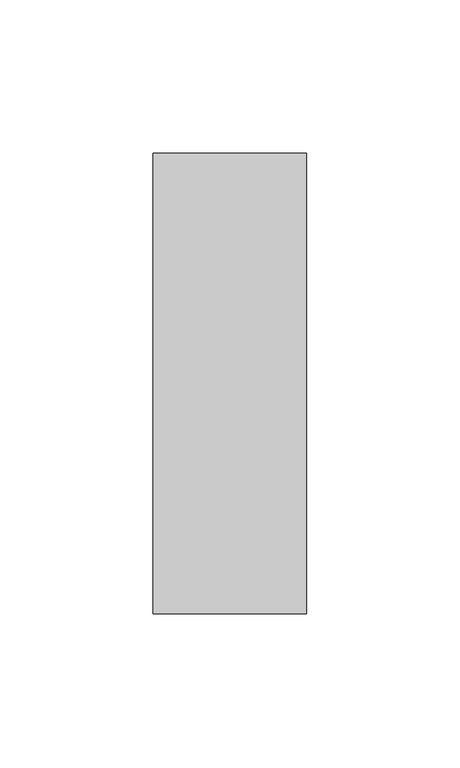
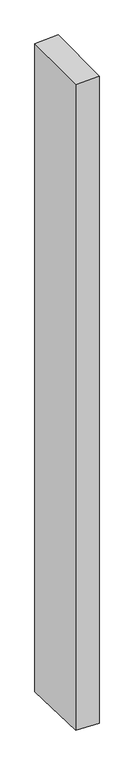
"""IFC4 building model written with IfcOpenShell, lengths in millimetres: member geometry, Прямоугольный импост : 50 x 150 мм."""

from ifc_helpers import new_model, si_unit, origin, place, context, project, spatial, faceted_brep, source, transform, mapped, element, save


def member_c89ea880(model_context):
    return source(origin(), model_context, "Body", "Brep", [
        faceted_brep([(-25.0, 75.0, 0.1522855), (25.0, 75.0, 2.0741417), (25.0, 75.0, -1461.2896383), (-25.0, 75.0, -1459.0078724), (-25.0, -75.0, -2.0741417), (-25.0, -75.0, -1454.3463744), (25.0, -75.0, -0.1522855), (25.0, -75.0, -1456.6281403)], [[[0, 1, 2, 3]], [[4, 0, 3, 5]], [[6, 4, 5, 7]], [[1, 6, 7, 2]], [[1, 0, 4, 6]], [[2, 7, 5, 3]]]),
    ])


if __name__ == "__main__":
    model = new_model("IFC4")
    model_context = context("Model", 3, world=origin())
    ifc_project = project(units=[si_unit("LENGTHUNIT", "METRE", prefix="MILLI")], contexts=[model_context])
    site = spatial("IfcSite", under=ifc_project)
    building = spatial("IfcBuilding", under=site)
    placement = place(None, origin())
    member_shape = member_c89ea880(model_context)
    element("IfcMember", 1, ObjectType="Прямоугольный импост : 50 x 150 мм", at=placement, inside=building, context=model_context, shape_type="MappedRepresentation", body=[
        mapped(member_shape, transform((0.0, 0.0, 0.0), x_axis=(1.0, 0.0, 0.0), y_axis=(0.0, 1.0, 0.0), z_axis=(0.0, 0.0, 1.0))),
    ])
    save(model, "model.ifc")
